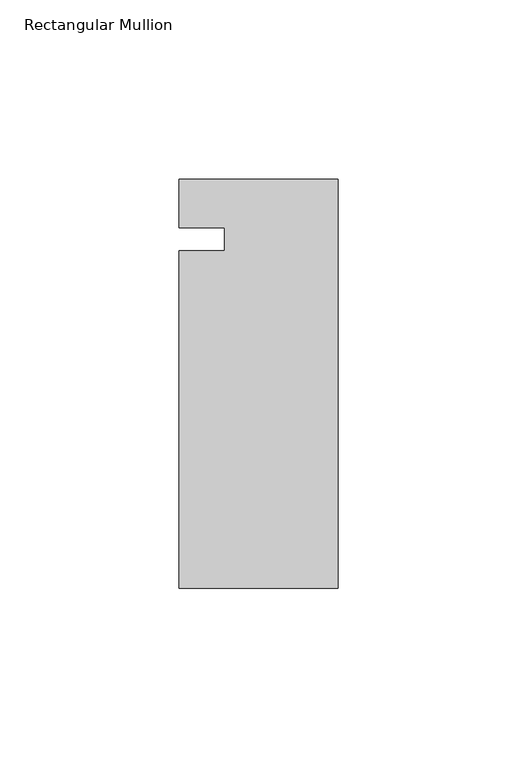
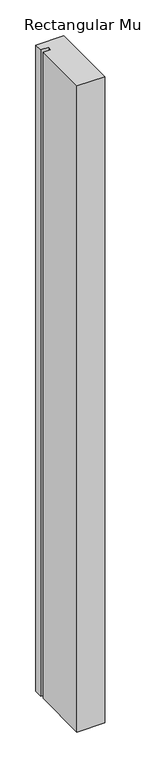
"""IFC4 building model written with IfcOpenShell, lengths in millimetres: member geometry, Rectangular Mullion : Kawneer-TRIFAB_VG_450_BACK_SB_Jamb R."""

import ifcopenshell
import ifcopenshell.guid

model = None  # the IFC model being written
_history = None  # IfcOwnerHistory: only IFC2X3 demands one
_inside = {}  # id of a spatial element -> (the spatial element, [elements in it])
_under = {}  # id of a project, library or spatial element -> (it, [spatial elements below it])
_declared = {}  # id of a project -> (the project, [libraries it declares])
_typed = {}  # id of a type object -> (the type object, [elements of that type])
_made_of = {}  # id of a material, layer set ... -> (it, [elements and type objects made of it])


def new_model(schema):
    """Start an empty IFC model of exactly this schema.

    Asked for "IFC4X3", IfcOpenShell would pick the latest addendum, in which some entities
    have other attributes; the version numbers below select the first issue.
    IFC2X3 requires an IfcOwnerHistory on every rooted entity: one is made here for all.
    """
    global model, _history
    if schema == "IFC4X3":
        model = ifcopenshell.file(schema_version=(4, 3, 0, 0))
    else:
        model = ifcopenshell.file(schema=schema)
    _inside.clear()
    _under.clear()
    _declared.clear()
    _typed.clear()
    _made_of.clear()
    _history = None
    if model.schema == "IFC2X3":
        org = make("IfcOrganization", Name="unknown")
        user = make(
            "IfcPersonAndOrganization",
            ThePerson=make("IfcPerson", FamilyName="unknown"),
            TheOrganization=org,
        )
        app = make(
            "IfcApplication",
            ApplicationDeveloper=org,
            Version="unknown",
            ApplicationFullName="unknown",
            ApplicationIdentifier="unknown",
        )
        _history = make(
            "IfcOwnerHistory",
            OwningUser=user,
            OwningApplication=app,
            ChangeAction="ADDED",
            CreationDate=0,
        )
    return model


def make(cls, **values):
    """One entity of the class cls with the attributes given. An attribute that is None is left unset."""
    return model.create_entity(
        cls, **{name: value for name, value in values.items() if value is not None}
    )


def rooted(cls, **values):
    """An entity with a GlobalId (a new one), such as an element, a storey or a relation."""
    return make(cls, GlobalId=ifcopenshell.guid.new(), OwnerHistory=_history, **values)


def si_unit(unit_type, name, prefix=None):
    """IfcSIUnit, for example si_unit("LENGTHUNIT", "METRE", prefix="MILLI")."""
    return make("IfcSIUnit", UnitType=unit_type, Prefix=prefix, Name=name)


def assignment(units):
    """IfcUnitAssignment: the units of a project."""
    return None if units is None else make("IfcUnitAssignment", Units=units)


def point(xyz):
    """IfcCartesianPoint."""
    return None if xyz is None else make("IfcCartesianPoint", Coordinates=xyz)


def direction(xyz):
    """IfcDirection."""
    return None if xyz is None else make("IfcDirection", DirectionRatios=xyz)


def frame(location, z_axis=None, x_axis=None):
    """IfcAxis2Placement3D, a coordinate frame: its origin and axes. An axis left out is left unset."""
    return make(
        "IfcAxis2Placement3D",
        Location=point(location),
        Axis=direction(z_axis),
        RefDirection=direction(x_axis),
    )


def origin():
    """The frame at (0, 0, 0) with its axes left unset."""
    return frame((0.0, 0.0, 0.0))


def place(relative_to, where):
    """IfcLocalPlacement: puts the frame where relative to a parent placement (None: the world)."""
    return make(
        "IfcLocalPlacement", PlacementRelTo=relative_to, RelativePlacement=where
    )


def context(
    kind, dimensions, precision=None, world=None, true_north=None, identifier=None
):
    """IfcGeometricRepresentationContext, for example the 3D "Model" context."""
    return make(
        "IfcGeometricRepresentationContext",
        ContextIdentifier=identifier,
        ContextType=kind,
        CoordinateSpaceDimension=dimensions,
        Precision=precision,
        WorldCoordinateSystem=world,
        TrueNorth=true_north,
    )


def project(units=None, contexts=None):
    """IfcProject with its units and contexts."""
    return rooted(
        "IfcProject",
        Name="project",
        RepresentationContexts=contexts,
        UnitsInContext=assignment(units),
    )


def spatial(cls, under=None, at=None, **own):
    """A site, building, storey or space (cls), placed at a placement, below another one or the project."""
    s = rooted(cls, ObjectPlacement=at, **own)
    if under is not None:
        _under.setdefault(under.id(), (under, []))[1].append(s)
    return s


def polyline(points):
    """IfcPolyline through the points."""
    return make("IfcPolyline", Points=[point(p) for p in points])


def outline(outer, holes=None, kind="AREA"):
    """IfcArbitraryClosedProfileDef: a profile drawn as a closed curve; with holes, ...WithVoids."""
    if holes is None:
        return make("IfcArbitraryClosedProfileDef", ProfileType=kind, OuterCurve=outer)
    return make(
        "IfcArbitraryProfileDefWithVoids",
        ProfileType=kind,
        OuterCurve=outer,
        InnerCurves=holes,
    )


def extrude(swept, where, along, depth):
    """IfcExtrudedAreaSolid: the profile swept, set in the frame where, extruded along a direction by depth."""
    return make(
        "IfcExtrudedAreaSolid",
        SweptArea=swept,
        Position=where,
        ExtrudedDirection=direction(along),
        Depth=depth,
    )


def shape(context_of_items, identifier, shape_type, items):
    """IfcShapeRepresentation: the items that make up one representation, for example the "Body"."""
    return make(
        "IfcShapeRepresentation",
        ContextOfItems=context_of_items,
        RepresentationIdentifier=identifier,
        RepresentationType=shape_type,
        Items=items,
    )


def source(mapping_origin, context_of_items, identifier, shape_type, items):
    """IfcRepresentationMap: a shape defined once, which mapped items show again and again."""
    return make(
        "IfcRepresentationMap",
        MappingOrigin=mapping_origin,
        MappedRepresentation=shape(context_of_items, identifier, shape_type, items),
    )


def transform(
    local_origin,
    x_axis=None,
    y_axis=None,
    z_axis=None,
    scale=None,
    scale2=None,
    scale3=None,
    uniform=True,
):
    """IfcCartesianTransformationOperator3D, or its non-uniform kind. x_axis, y_axis, z_axis: its Axis1, 2, 3."""
    if uniform:
        return make(
            "IfcCartesianTransformationOperator3D",
            Axis1=direction(x_axis),
            Axis2=direction(y_axis),
            LocalOrigin=point(local_origin),
            Scale=scale,
            Axis3=direction(z_axis),
        )
    return make(
        "IfcCartesianTransformationOperator3DnonUniform",
        Axis1=direction(x_axis),
        Axis2=direction(y_axis),
        LocalOrigin=point(local_origin),
        Scale=scale,
        Axis3=direction(z_axis),
        Scale2=scale2,
        Scale3=scale3,
    )


def mapped(mapping_source, mapping_target):
    """IfcMappedItem: shows the shape of a source again, moved by a transform."""
    return make(
        "IfcMappedItem", MappingSource=mapping_source, MappingTarget=mapping_target
    )


def made_of(thing, what):
    """Note that an element or type object is made of a material, layer set ...; save() writes the relation."""
    if what is not None:
        _made_of.setdefault(what.id(), (what, []))[1].append(thing)
    return thing


def element(
    cls,
    number,
    at=None,
    inside=None,
    cuts=None,
    type_object=None,
    material=None,
    context=None,
    identifier="Body",
    shape_type=None,
    held_by="IfcProductDefinitionShape",
    body=None,
    shapes=None,
    **own,
):
    """One element of the class cls, such as IfcWall. Its Tag is "e" and its number.

    at: its placement. inside: the storey or other place that contains it. cuts: it is an
    opening in that element (IfcRelVoidsElement). A single representation is given by context,
    identifier, shape_type and body (its items); several are given by shapes. held_by: the class
    of the entity that holds the representations. save() writes the other relations.
    """
    e = rooted(cls, Tag="e%d" % number, ObjectPlacement=at, **own)
    if body is not None:
        shapes = [shape(context, identifier, shape_type, body)]
    if shapes is not None:
        e.Representation = make(held_by, Representations=shapes)
    if inside is not None:
        _inside.setdefault(inside.id(), (inside, []))[1].append(e)
    if cuts is not None:
        rooted(
            "IfcRelVoidsElement", RelatingBuildingElement=cuts, RelatedOpeningElement=e
        )
    if type_object is not None:
        _typed.setdefault(type_object.id(), (type_object, []))[1].append(e)
    return made_of(e, material)


def aggregate(whole, parts):
    """IfcRelAggregates: a whole, such as a stair, and the parts it consists of."""
    return rooted("IfcRelAggregates", RelatingObject=whole, RelatedObjects=parts)


def save(model, path):
    """Write the relations noted so far, then the file.

    IfcRelAggregates (storeys below a building ...), IfcRelContainedInSpatialStructure (elements
    in a storey), IfcRelDefinesByType, IfcRelAssociatesMaterial and IfcRelDeclares: one each for
    every whole, place, type object, material and project.
    """
    for whole, parts in _under.values():
        aggregate(whole, parts)
    for where, things in _inside.values():
        rooted(
            "IfcRelContainedInSpatialStructure",
            RelatedElements=things,
            RelatingStructure=where,
        )
    for kind, things in _typed.values():
        rooted("IfcRelDefinesByType", RelatedObjects=things, RelatingType=kind)
    for what, things in _made_of.values():
        rooted("IfcRelAssociatesMaterial", RelatedObjects=things, RelatingMaterial=what)
    for by, libraries in _declared.values():
        rooted("IfcRelDeclares", RelatingContext=by, RelatedDefinitions=libraries)
    model.write(path)


def rectangular_mullion_2aeec064(model_context):
    return source(origin(), model_context, "Body", "SweptSolid", [
        extrude(outline(polyline([(-44.45, 16.8081154), (0.0, 16.8081154), (0.0, -97.4918846), (-44.45, -97.4918846), (-44.45, -3.175), (-31.7482296, -3.175), (-31.7482296, 3.175), (-44.45, 3.175), (-44.45, 16.8081154)])), frame((0.0, 0.0, -1098.55), z_axis=(0.0, 0.0, 1.0), x_axis=(1.0, 0.0, 0.0)), (0.0, 0.0, 1.0), 1098.55),
    ])


if __name__ == "__main__":
    model = new_model("IFC4")
    model_context = context("Model", 3, world=origin())
    ifc_project = project(units=[si_unit("LENGTHUNIT", "METRE", prefix="MILLI")], contexts=[model_context])
    site = spatial("IfcSite", under=ifc_project)
    building = spatial("IfcBuilding", under=site)
    placement = place(None, origin())
    rectangular_mullion_shape = rectangular_mullion_2aeec064(model_context)
    element("IfcMember", 1, ObjectType="Rectangular Mullion : Kawneer-TRIFAB_VG_450_BACK_SB_Jamb R", at=placement, inside=building, context=model_context, shape_type="MappedRepresentation", body=[
        mapped(rectangular_mullion_shape, transform((0.0, 0.0, 0.0), x_axis=(1.0, 0.0, 0.0), y_axis=(0.0, 1.0, 0.0), z_axis=(0.0, 0.0, 1.0))),
    ])
    save(model, "model.ifc")
